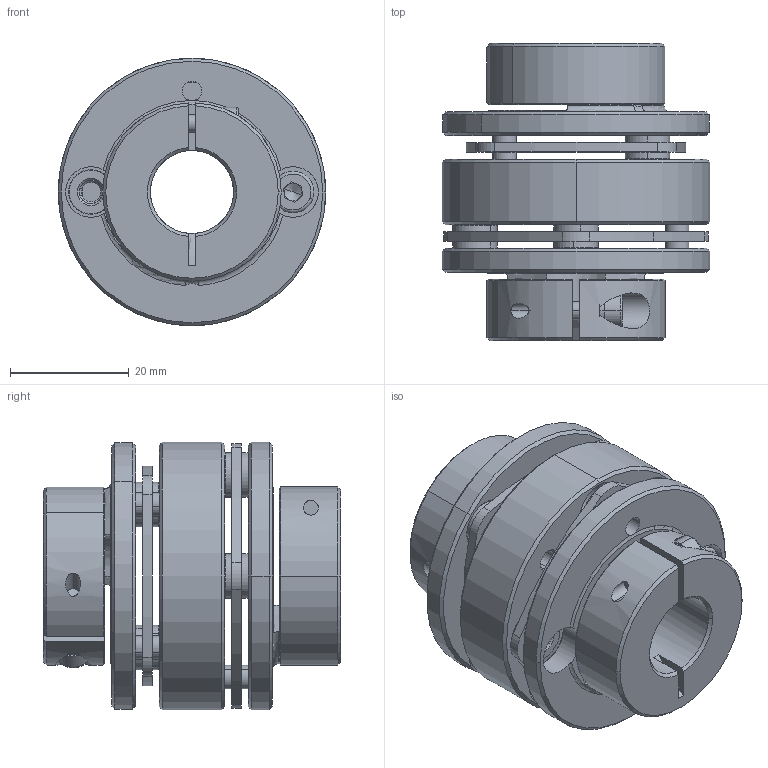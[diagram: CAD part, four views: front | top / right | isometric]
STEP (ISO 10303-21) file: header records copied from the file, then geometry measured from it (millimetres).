
FILE_DESCRIPTION (( 'STEP AP203' ), '1' );
FILE_NAME ('LE2-B-D45L50-14-14.STEP', '2021-11-01T06:44:42', ( '' ), ( '' ), 'SwSTEP 2.0', 'SolidWorks 2018', '' );
FILE_SCHEMA (( 'CONFIG_CONTROL_DESIGN' ));
Length unit declared in the file: millimetre
Products named in the file (1): LE2-B-D45L50-14-14
Bounding box: 45 x 50 x 45 mm (x, y, z)
Volume: 35601 mm3; surface area: 23306.8 mm2
Topology: 1 solids, 5 shells, 498 faces, 1200 edges, 736 vertices
Faces by surface type: cylinder 182, cone 154, plane 142, torus 18, bspline 2
Entity records: 15025 total; most frequent: CARTESIAN_POINT 2871, DIRECTION 2770, ORIENTED_EDGE 2376, EDGE_CURVE 1188, AXIS2_PLACEMENT_3D 1133, VERTEX_POINT 736, CIRCLE 636, EDGE_LOOP 592
